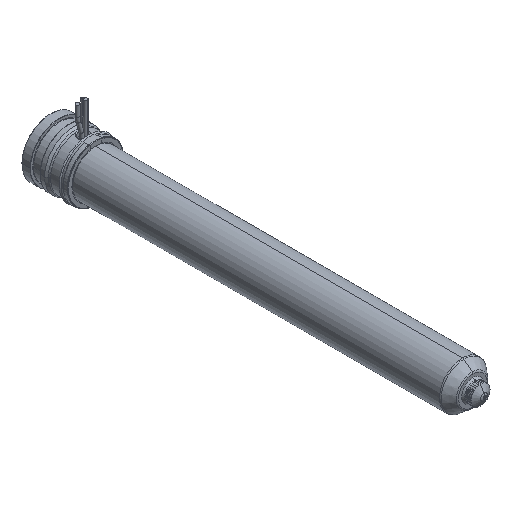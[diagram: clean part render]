
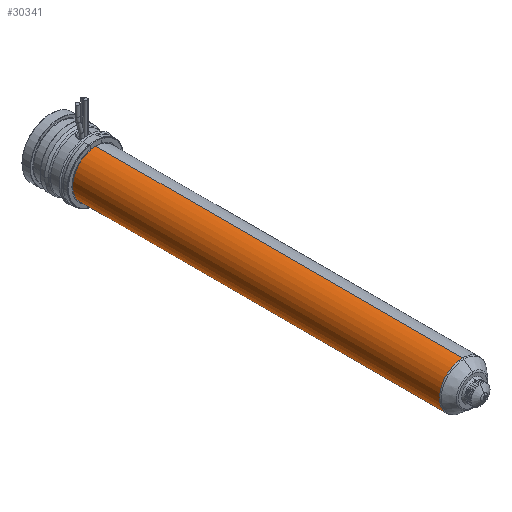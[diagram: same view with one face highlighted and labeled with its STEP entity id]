
A CAD part, isometric view. The second image highlights one B-rep face of the part: STEP entity #30341.
In plain terms, the highlighted cylindrical face has radius 12 mm (diameter 24 mm), a partial arc.
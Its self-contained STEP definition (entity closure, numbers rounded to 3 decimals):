
#29734=CARTESIAN_POINT('',(0.,-213.736,0.));
#29735=DIRECTION('',(0.,-1.,0.));
#29736=DIRECTION('',(0.,0.,1.));
#29737=AXIS2_PLACEMENT_3D('',#29734,#29735,#29736);
#29742=CARTESIAN_POINT('',(0.,-24.,0.));
#29743=DIRECTION('',(0.,1.,0.));
#29744=DIRECTION('',(0.,0.,-1.));
#29745=AXIS2_PLACEMENT_3D('',#29742,#29743,#29744);
#29750=DIRECTION('',(0.,1.,0.));
#29751=VECTOR('',#29750,189.736);
#29752=CARTESIAN_POINT('',(0.,-213.736,12.));
#29753=LINE('',#29752,#29751);
#29765=DIRECTION('',(0.,1.,0.));
#29766=VECTOR('',#29765,189.736);
#29767=CARTESIAN_POINT('',(0.,-213.736,-12.));
#29768=LINE('',#29767,#29766);
#29946=CARTESIAN_POINT('',(0.,-213.736,12.));
#29947=CARTESIAN_POINT('',(0.,-24.,12.));
#29948=VERTEX_POINT('',#29946);
#29949=VERTEX_POINT('',#29947);
#29950=CARTESIAN_POINT('',(0.,-213.736,-12.));
#29951=CARTESIAN_POINT('',(0.,-24.,-12.));
#29952=VERTEX_POINT('',#29950);
#29953=VERTEX_POINT('',#29951);
#30327=CARTESIAN_POINT('',(0.,-9.7,0.));
#30328=DIRECTION('',(0.,-1.,0.));
#30329=DIRECTION('',(0.,0.,1.));
#30330=AXIS2_PLACEMENT_3D('',#30327,#30328,#30329);
#30331=CYLINDRICAL_SURFACE('',#30330,12.);
#30333=ORIENTED_EDGE('',*,*,#30332,.F.);
#30334=ORIENTED_EDGE('',*,*,#30322,.T.);
#30336=ORIENTED_EDGE('',*,*,#30335,.T.);
#30338=ORIENTED_EDGE('',*,*,#30337,.T.);
#30339=EDGE_LOOP('',(#30333,#30334,#30336,#30338));
#30340=FACE_OUTER_BOUND('',#30339,.F.);
#30341=ADVANCED_FACE('',(#30340),#30331,.T.);
#29738=CIRCLE('',#29737,12.);
#29746=CIRCLE('',#29745,12.);
#30322=EDGE_CURVE('',#29948,#29952,#29738,.T.);
#30332=EDGE_CURVE('',#29948,#29949,#29753,.T.);
#30335=EDGE_CURVE('',#29952,#29953,#29768,.T.);
#30337=EDGE_CURVE('',#29953,#29949,#29746,.T.);
